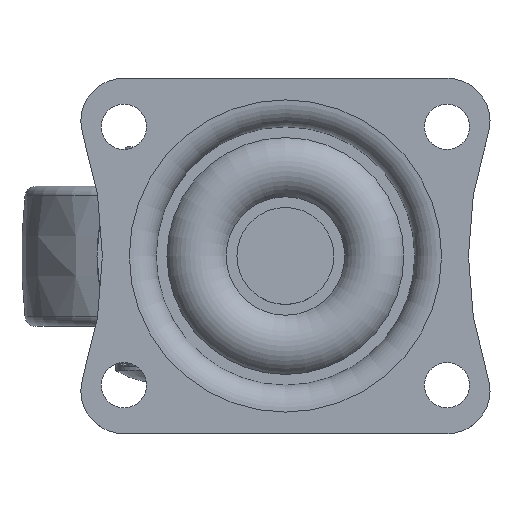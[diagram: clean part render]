
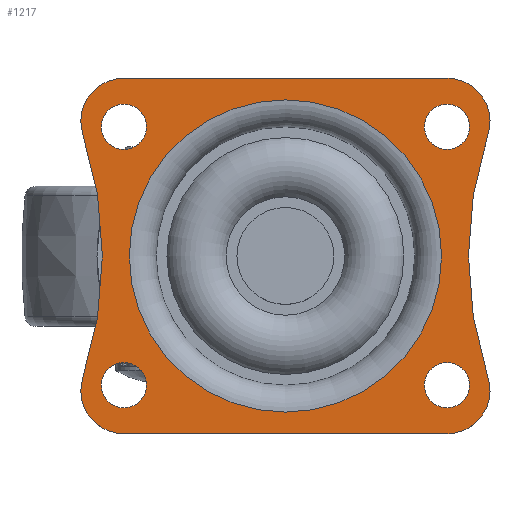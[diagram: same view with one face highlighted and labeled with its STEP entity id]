
A CAD part, top view. The second image highlights one B-rep face of the part: STEP entity #1217.
In plain terms, the highlighted planar face has unit normal (0, 0, 1).
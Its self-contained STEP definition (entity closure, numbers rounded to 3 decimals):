
#554=LINE('',#6866,#823);
#555=LINE('',#6874,#824);
#823=VECTOR('',#5653,1.);
#824=VECTOR('',#5660,1.);
#1217=ADVANCED_FACE('',(#1746,#1747,#1748,#1749,#1750,#1751),#1501,.T.);
#1501=PLANE('',#5123);
#1746=FACE_BOUND('',#1924,.T.);
#1747=FACE_BOUND('',#1925,.T.);
#1748=FACE_BOUND('',#1926,.T.);
#1749=FACE_BOUND('',#1927,.T.);
#1750=FACE_BOUND('',#1928,.T.);
#1751=FACE_BOUND('',#1929,.T.);
#1924=EDGE_LOOP('',(#2335,#2336,#2337,#2338,#2339,#2340,#2341,#2342));
#1925=EDGE_LOOP('',(#2343));
#1926=EDGE_LOOP('',(#2344));
#1927=EDGE_LOOP('',(#2345));
#1928=EDGE_LOOP('',(#2346));
#1929=EDGE_LOOP('',(#2347));
#2335=ORIENTED_EDGE('',*,*,#4210,.F.);
#2336=ORIENTED_EDGE('',*,*,#4211,.F.);
#2337=ORIENTED_EDGE('',*,*,#4212,.F.);
#2338=ORIENTED_EDGE('',*,*,#4213,.F.);
#2339=ORIENTED_EDGE('',*,*,#4214,.F.);
#2340=ORIENTED_EDGE('',*,*,#4215,.F.);
#2341=ORIENTED_EDGE('',*,*,#4216,.F.);
#2342=ORIENTED_EDGE('',*,*,#4217,.F.);
#2343=ORIENTED_EDGE('',*,*,#4218,.T.);
#2344=ORIENTED_EDGE('',*,*,#4219,.T.);
#2345=ORIENTED_EDGE('',*,*,#4220,.T.);
#2346=ORIENTED_EDGE('',*,*,#4209,.F.);
#2347=ORIENTED_EDGE('',*,*,#4221,.T.);
#3712=VERTEX_POINT('',#6860);
#3713=VERTEX_POINT('',#6864);
#3714=VERTEX_POINT('',#6865);
#3715=VERTEX_POINT('',#6867);
#3716=VERTEX_POINT('',#6869);
#3717=VERTEX_POINT('',#6871);
#3718=VERTEX_POINT('',#6873);
#3719=VERTEX_POINT('',#6875);
#3720=VERTEX_POINT('',#6877);
#3721=VERTEX_POINT('',#6880);
#3722=VERTEX_POINT('',#6882);
#3723=VERTEX_POINT('',#6884);
#3724=VERTEX_POINT('',#6886);
#4209=EDGE_CURVE('',#3712,#3712,#4912,.T.);
#4210=EDGE_CURVE('',#3713,#3714,#4913,.T.);
#4211=EDGE_CURVE('',#3715,#3713,#554,.T.);
#4212=EDGE_CURVE('',#3716,#3715,#4914,.T.);
#4213=EDGE_CURVE('',#3717,#3716,#4915,.T.);
#4214=EDGE_CURVE('',#3718,#3717,#4916,.T.);
#4215=EDGE_CURVE('',#3719,#3718,#555,.T.);
#4216=EDGE_CURVE('',#3720,#3719,#4917,.T.);
#4217=EDGE_CURVE('',#3714,#3720,#4918,.T.);
#4218=EDGE_CURVE('',#3721,#3721,#4919,.T.);
#4219=EDGE_CURVE('',#3722,#3722,#4920,.T.);
#4220=EDGE_CURVE('',#3723,#3723,#4921,.T.);
#4221=EDGE_CURVE('',#3724,#3724,#4922,.T.);
#4912=CIRCLE('',#5110,14.5);
#4913=CIRCLE('',#5113,4.);
#4914=CIRCLE('',#5114,4.);
#4915=CIRCLE('',#5115,36.062);
#4916=CIRCLE('',#5116,4.);
#4917=CIRCLE('',#5117,4.);
#4918=CIRCLE('',#5118,36.062);
#4919=CIRCLE('',#5119,2.1);
#4920=CIRCLE('',#5120,2.1);
#4921=CIRCLE('',#5121,2.1);
#4922=CIRCLE('',#5122,2.1);
#5110=AXIS2_PLACEMENT_3D('',#6859,#5645,#5646);
#5113=AXIS2_PLACEMENT_3D('',#6863,#5651,#5652);
#5114=AXIS2_PLACEMENT_3D('',#6868,#5654,#5655);
#5115=AXIS2_PLACEMENT_3D('',#6870,#5656,#5657);
#5116=AXIS2_PLACEMENT_3D('',#6872,#5658,#5659);
#5117=AXIS2_PLACEMENT_3D('',#6876,#5661,#5662);
#5118=AXIS2_PLACEMENT_3D('',#6878,#5663,#5664);
#5119=AXIS2_PLACEMENT_3D('',#6879,#5665,#5666);
#5120=AXIS2_PLACEMENT_3D('',#6881,#5667,#5668);
#5121=AXIS2_PLACEMENT_3D('',#6883,#5669,#5670);
#5122=AXIS2_PLACEMENT_3D('',#6885,#5671,#5672);
#5123=AXIS2_PLACEMENT_3D('',#6887,#5673,#5674);
#5645=DIRECTION('',(0.,0.,1.));
#5646=DIRECTION('',(0.,-1.,0.));
#5651=DIRECTION('',(0.,0.,-1.));
#5652=DIRECTION('',(1.,0.,0.));
#5653=DIRECTION('',(-1.,0.,0.));
#5654=DIRECTION('',(0.,0.,-1.));
#5655=DIRECTION('',(1.,0.,0.));
#5656=DIRECTION('',(0.,0.,1.));
#5657=DIRECTION('',(1.,0.,0.));
#5658=DIRECTION('',(0.,0.,-1.));
#5659=DIRECTION('',(1.,0.,0.));
#5660=DIRECTION('',(1.,0.,0.));
#5661=DIRECTION('',(0.,0.,-1.));
#5662=DIRECTION('',(1.,0.,0.));
#5663=DIRECTION('',(0.,0.,1.));
#5664=DIRECTION('',(1.,0.,0.));
#5665=DIRECTION('',(0.,0.,-1.));
#5666=DIRECTION('',(1.,0.,0.));
#5667=DIRECTION('',(0.,0.,-1.));
#5668=DIRECTION('',(1.,0.,0.));
#5669=DIRECTION('',(0.,0.,-1.));
#5670=DIRECTION('',(1.,0.,0.));
#5671=DIRECTION('',(0.,0.,-1.));
#5672=DIRECTION('',(1.,0.,0.));
#5673=DIRECTION('',(0.,0.,1.));
#5674=DIRECTION('',(0.,-1.,0.));
#6859=CARTESIAN_POINT('',(0.,0.,0.));
#6860=CARTESIAN_POINT('',(0.,-14.5,0.));
#6863=CARTESIAN_POINT('',(-15.,-12.5,0.));
#6864=CARTESIAN_POINT('',(-15.,-16.5,0.));
#6865=CARTESIAN_POINT('',(-18.8,-11.252,0.));
#6866=CARTESIAN_POINT('',(15.,-16.5,0.));
#6867=CARTESIAN_POINT('',(15.,-16.5,0.));
#6868=CARTESIAN_POINT('',(15.,-12.5,0.));
#6869=CARTESIAN_POINT('',(18.8,-11.252,0.));
#6870=CARTESIAN_POINT('',(53.062,0.,0.));
#6871=CARTESIAN_POINT('',(18.8,11.252,0.));
#6872=CARTESIAN_POINT('',(15.,12.5,0.));
#6873=CARTESIAN_POINT('',(15.,16.5,0.));
#6874=CARTESIAN_POINT('',(-15.,16.5,0.));
#6875=CARTESIAN_POINT('',(-15.,16.5,0.));
#6876=CARTESIAN_POINT('',(-15.,12.5,0.));
#6877=CARTESIAN_POINT('',(-18.8,11.252,0.));
#6878=CARTESIAN_POINT('',(-53.062,0.,0.));
#6879=CARTESIAN_POINT('',(-15.,-12.,0.));
#6880=CARTESIAN_POINT('',(-12.9,-12.,0.));
#6881=CARTESIAN_POINT('',(-15.,12.,0.));
#6882=CARTESIAN_POINT('',(-12.9,12.,0.));
#6883=CARTESIAN_POINT('',(15.,12.,0.));
#6884=CARTESIAN_POINT('',(17.1,12.,0.));
#6885=CARTESIAN_POINT('',(15.,-12.,0.));
#6886=CARTESIAN_POINT('',(17.1,-12.,0.));
#6887=CARTESIAN_POINT('',(-14.5,0.,0.));
